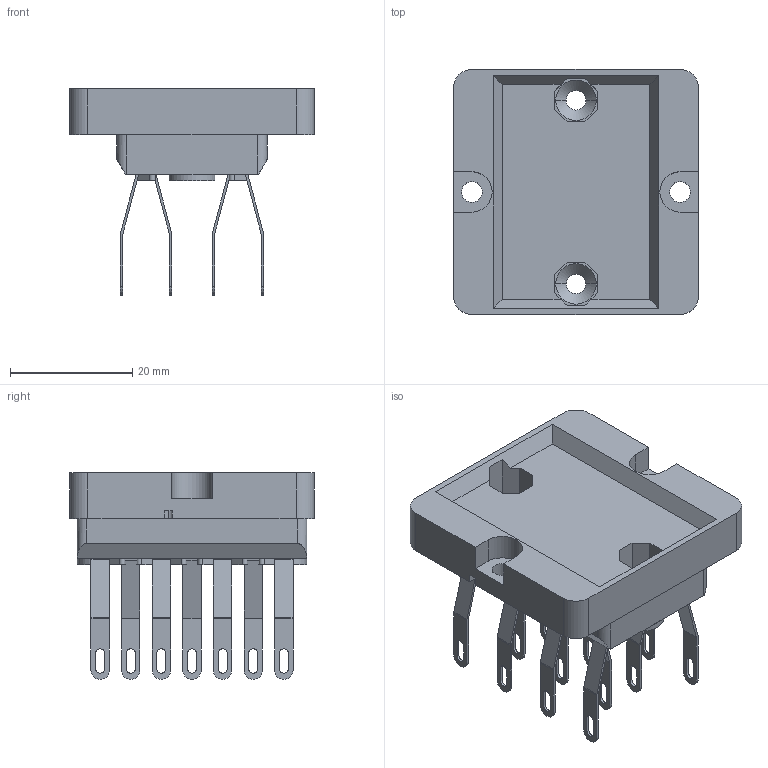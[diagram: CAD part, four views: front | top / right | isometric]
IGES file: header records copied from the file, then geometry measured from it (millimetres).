
Global section: file name: No Iges File Name specified; native system: Autodesk Inventor 2009; preprocessor: AutoDesk Inventor Iges Exporter R2009; author: Niriawan; date: 20080819.113056; units: millimetre
Bounding box: 40 x 40 x 33.76 mm (x, y, z)
Volume: 13611.4 mm3; surface area: 8773.3 mm2
Topology: 1 solids, 1 shells, 546 faces, 1470 edges, 960 vertices
Faces by surface type: plane 368, revolution 88, cylinder 82, bspline 8
